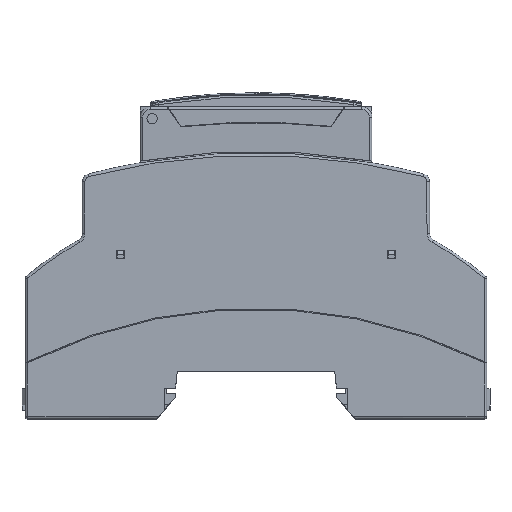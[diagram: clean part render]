
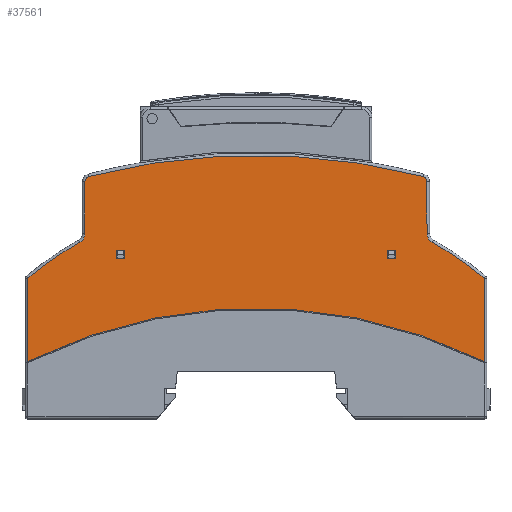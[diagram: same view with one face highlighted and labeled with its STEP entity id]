
A CAD part, top view. The second image highlights one B-rep face of the part: STEP entity #37561.
In plain terms, the highlighted planar face has unit normal (0, 0, 1).
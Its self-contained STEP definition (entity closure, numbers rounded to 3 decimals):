
#236=FACE_BOUND('',#3250,.T.);
#237=FACE_BOUND('',#3251,.T.);
#769=CIRCLE('',#39301,1.);
#770=CIRCLE('',#39302,129.2);
#771=CIRCLE('',#39303,1.);
#772=CIRCLE('',#39304,2.);
#773=CIRCLE('',#39305,69.5);
#774=CIRCLE('',#39306,99.5);
#775=CIRCLE('',#39307,69.5);
#776=CIRCLE('',#39308,2.);
#1592=FACE_OUTER_BOUND('',#3249,.T.);
#3249=EDGE_LOOP('',(#24337,#24338,#24339,#24340,#24341,#24342,#24343,#24344,
#24345,#24346,#24347,#24348));
#3250=EDGE_LOOP('',(#24349,#24350,#24351,#24352));
#3251=EDGE_LOOP('',(#24353,#24354,#24355,#24356));
#5161=LINE('',#58810,#9814);
#5162=LINE('',#58818,#9815);
#5163=LINE('',#58824,#9816);
#5164=LINE('',#58828,#9817);
#5165=LINE('',#58834,#9818);
#5166=LINE('',#58836,#9819);
#5167=LINE('',#58838,#9820);
#5168=LINE('',#58839,#9821);
#5169=LINE('',#58842,#9822);
#5170=LINE('',#58844,#9823);
#5171=LINE('',#58846,#9824);
#5172=LINE('',#58847,#9825);
#9814=VECTOR('',#42016,1.);
#9815=VECTOR('',#42023,1.);
#9816=VECTOR('',#42028,1.);
#9817=VECTOR('',#42031,1.);
#9818=VECTOR('',#42036,1.);
#9819=VECTOR('',#42037,1.);
#9820=VECTOR('',#42038,1.);
#9821=VECTOR('',#42039,1.);
#9822=VECTOR('',#42040,1.);
#9823=VECTOR('',#42041,1.);
#9824=VECTOR('',#42042,1.);
#9825=VECTOR('',#42043,1.);
#14606=VERTEX_POINT('',#58808);
#14607=VERTEX_POINT('',#58809);
#14608=VERTEX_POINT('',#58811);
#14609=VERTEX_POINT('',#58813);
#14610=VERTEX_POINT('',#58815);
#14611=VERTEX_POINT('',#58817);
#14612=VERTEX_POINT('',#58819);
#14613=VERTEX_POINT('',#58821);
#14614=VERTEX_POINT('',#58823);
#14615=VERTEX_POINT('',#58825);
#14616=VERTEX_POINT('',#58827);
#14617=VERTEX_POINT('',#58829);
#14618=VERTEX_POINT('',#58832);
#14619=VERTEX_POINT('',#58833);
#14620=VERTEX_POINT('',#58835);
#14621=VERTEX_POINT('',#58837);
#14622=VERTEX_POINT('',#58840);
#14623=VERTEX_POINT('',#58841);
#14624=VERTEX_POINT('',#58843);
#14625=VERTEX_POINT('',#58845);
#18578=EDGE_CURVE('',#14606,#14607,#5161,.T.);
#18579=EDGE_CURVE('',#14608,#14606,#769,.T.);
#18580=EDGE_CURVE('',#14609,#14608,#770,.T.);
#18581=EDGE_CURVE('',#14609,#14610,#771,.T.);
#18582=EDGE_CURVE('',#14610,#14611,#5162,.T.);
#18583=EDGE_CURVE('',#14611,#14612,#772,.T.);
#18584=EDGE_CURVE('',#14613,#14612,#773,.T.);
#18585=EDGE_CURVE('',#14613,#14614,#5163,.T.);
#18586=EDGE_CURVE('',#14615,#14614,#774,.T.);
#18587=EDGE_CURVE('',#14616,#14615,#5164,.T.);
#18588=EDGE_CURVE('',#14616,#14617,#775,.T.);
#18589=EDGE_CURVE('',#14607,#14617,#776,.T.);
#18590=EDGE_CURVE('',#14618,#14619,#5165,.T.);
#18591=EDGE_CURVE('',#14619,#14620,#5166,.T.);
#18592=EDGE_CURVE('',#14620,#14621,#5167,.T.);
#18593=EDGE_CURVE('',#14621,#14618,#5168,.T.);
#18594=EDGE_CURVE('',#14622,#14623,#5169,.T.);
#18595=EDGE_CURVE('',#14624,#14622,#5170,.T.);
#18596=EDGE_CURVE('',#14625,#14624,#5171,.T.);
#18597=EDGE_CURVE('',#14625,#14623,#5172,.T.);
#24337=ORIENTED_EDGE('',*,*,#18578,.F.);
#24338=ORIENTED_EDGE('',*,*,#18579,.F.);
#24339=ORIENTED_EDGE('',*,*,#18580,.F.);
#24340=ORIENTED_EDGE('',*,*,#18581,.T.);
#24341=ORIENTED_EDGE('',*,*,#18582,.T.);
#24342=ORIENTED_EDGE('',*,*,#18583,.T.);
#24343=ORIENTED_EDGE('',*,*,#18584,.F.);
#24344=ORIENTED_EDGE('',*,*,#18585,.T.);
#24345=ORIENTED_EDGE('',*,*,#18586,.F.);
#24346=ORIENTED_EDGE('',*,*,#18587,.F.);
#24347=ORIENTED_EDGE('',*,*,#18588,.T.);
#24348=ORIENTED_EDGE('',*,*,#18589,.F.);
#24349=ORIENTED_EDGE('',*,*,#18590,.T.);
#24350=ORIENTED_EDGE('',*,*,#18591,.T.);
#24351=ORIENTED_EDGE('',*,*,#18592,.T.);
#24352=ORIENTED_EDGE('',*,*,#18593,.T.);
#24353=ORIENTED_EDGE('',*,*,#18594,.F.);
#24354=ORIENTED_EDGE('',*,*,#18595,.F.);
#24355=ORIENTED_EDGE('',*,*,#18596,.F.);
#24356=ORIENTED_EDGE('',*,*,#18597,.T.);
#34488=PLANE('',#39300);
#37561=ADVANCED_FACE('',(#1592,#236,#237),#34488,.F.);
#39300=AXIS2_PLACEMENT_3D('',#58807,#42014,#42015);
#39301=AXIS2_PLACEMENT_3D('',#58812,#42017,#42018);
#39302=AXIS2_PLACEMENT_3D('',#58814,#42019,#42020);
#39303=AXIS2_PLACEMENT_3D('',#58816,#42021,#42022);
#39304=AXIS2_PLACEMENT_3D('',#58820,#42024,#42025);
#39305=AXIS2_PLACEMENT_3D('',#58822,#42026,#42027);
#39306=AXIS2_PLACEMENT_3D('',#58826,#42029,#42030);
#39307=AXIS2_PLACEMENT_3D('',#58830,#42032,#42033);
#39308=AXIS2_PLACEMENT_3D('',#58831,#42034,#42035);
#42014=DIRECTION('center_axis',(0.,0.,
-1.));
#42015=DIRECTION('ref_axis',(-1.,0.,0.));
#42016=DIRECTION('',(0.,-1.,0.));
#42017=DIRECTION('center_axis',(0.,0.,
-1.));
#42018=DIRECTION('ref_axis',(1.,0.,0.));
#42019=DIRECTION('center_axis',(0.,0.,
-1.));
#42020=DIRECTION('ref_axis',(1.,0.,0.));
#42021=DIRECTION('center_axis',(0.,0.,
1.));
#42022=DIRECTION('ref_axis',(-1.,0.,0.));
#42023=DIRECTION('',(0.,-1.,0.));
#42024=DIRECTION('center_axis',(0.,0.,
-1.));
#42025=DIRECTION('ref_axis',(1.,0.,0.));
#42026=DIRECTION('center_axis',(0.,0.,
-1.));
#42027=DIRECTION('ref_axis',(1.,0.,0.));
#42028=DIRECTION('',(0.,-1.,0.));
#42029=DIRECTION('center_axis',(0.,0.,
1.));
#42030=DIRECTION('ref_axis',(1.,0.,0.));
#42031=DIRECTION('',(0.,-1.,0.));
#42032=DIRECTION('center_axis',(0.,0.,
1.));
#42033=DIRECTION('ref_axis',(-1.,0.,0.));
#42034=DIRECTION('center_axis',(0.,0.,
1.));
#42035=DIRECTION('ref_axis',(-1.,0.,0.));
#42036=DIRECTION('',(0.,1.,0.));
#42037=DIRECTION('',(1.,0.,0.));
#42038=DIRECTION('',(0.,-1.,0.));
#42039=DIRECTION('',(-1.,0.,0.));
#42040=DIRECTION('',(1.,0.,0.));
#42041=DIRECTION('',(0.,-1.,0.));
#42042=DIRECTION('',(-1.,0.,0.));
#42043=DIRECTION('',(0.,-1.,0.));
#58807=CARTESIAN_POINT('Origin',(79.734,22.71,13.975));
#58808=CARTESIAN_POINT('',(75.4,38.177,13.975));
#58809=CARTESIAN_POINT('',(75.4,28.107,13.975));
#58810=CARTESIAN_POINT('',(75.4,-5.45,13.975));
#58811=CARTESIAN_POINT('',(74.652,39.145,13.975));
#58812=CARTESIAN_POINT('Origin',(74.4,38.177,13.975));
#58813=CARTESIAN_POINT('',(9.648,39.145,13.975));
#58814=CARTESIAN_POINT('Origin',(42.15,-85.9,13.975));
#58815=CARTESIAN_POINT('',(8.9,38.177,13.975));
#58816=CARTESIAN_POINT('Origin',(9.9,38.177,13.975));
#58817=CARTESIAN_POINT('',(8.9,28.107,13.975));
#58818=CARTESIAN_POINT('',(8.9,-5.45,13.975));
#58819=CARTESIAN_POINT('',(7.886,26.367,13.975));
#58820=CARTESIAN_POINT('Origin',(6.9,28.107,13.975));
#58821=CARTESIAN_POINT('',(-2.2,19.41,13.975));
#58822=CARTESIAN_POINT('Origin',(42.15,-34.1,13.975));
#58823=CARTESIAN_POINT('',(-2.2,3.169,13.975));
#58824=CARTESIAN_POINT('',(-2.2,-22.95,13.975));
#58825=CARTESIAN_POINT('',(86.5,3.169,13.975));
#58826=CARTESIAN_POINT('Origin',(42.15,-85.9,13.975));
#58827=CARTESIAN_POINT('',(86.5,19.41,13.975));
#58828=CARTESIAN_POINT('',(86.5,-22.95,13.975));
#58829=CARTESIAN_POINT('',(76.414,26.367,13.975));
#58830=CARTESIAN_POINT('Origin',(42.15,-34.1,13.975));
#58831=CARTESIAN_POINT('Origin',(77.4,28.107,13.975));
#58832=CARTESIAN_POINT('',(67.8,23.15,13.975));
#58833=CARTESIAN_POINT('',(67.8,24.85,13.975));
#58834=CARTESIAN_POINT('',(67.8,-5.25,13.975));
#58835=CARTESIAN_POINT('',(69.2,24.85,13.975));
#58836=CARTESIAN_POINT('',(36.65,24.85,13.975));
#58837=CARTESIAN_POINT('',(69.2,23.15,13.975));
#58838=CARTESIAN_POINT('',(69.2,-5.25,13.975));
#58839=CARTESIAN_POINT('',(36.65,23.15,13.975));
#58840=CARTESIAN_POINT('',(15.1,23.15,13.975));
#58841=CARTESIAN_POINT('',(16.5,23.15,13.975));
#58842=CARTESIAN_POINT('',(36.65,23.15,13.975));
#58843=CARTESIAN_POINT('',(15.1,24.85,13.975));
#58844=CARTESIAN_POINT('',(15.1,-5.25,13.975));
#58845=CARTESIAN_POINT('',(16.5,24.85,13.975));
#58846=CARTESIAN_POINT('',(36.65,24.85,13.975));
#58847=CARTESIAN_POINT('',(16.5,-5.25,13.975));
